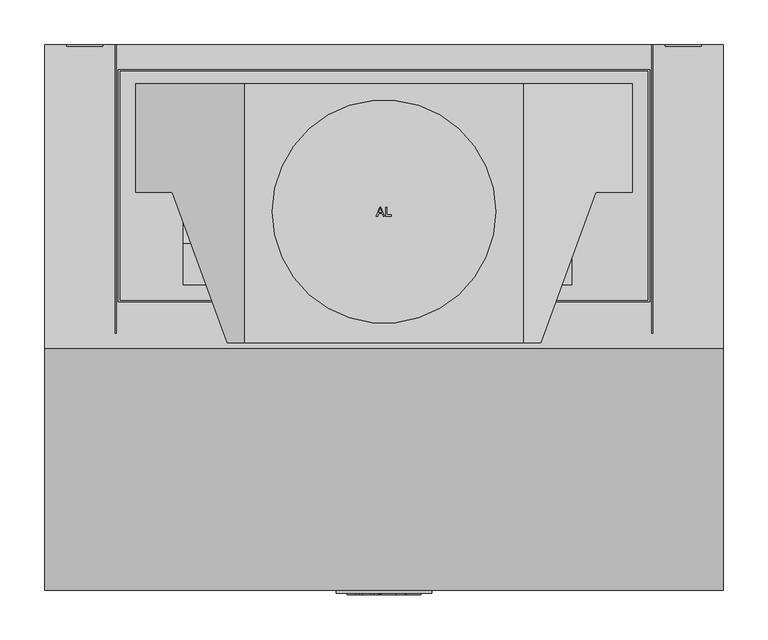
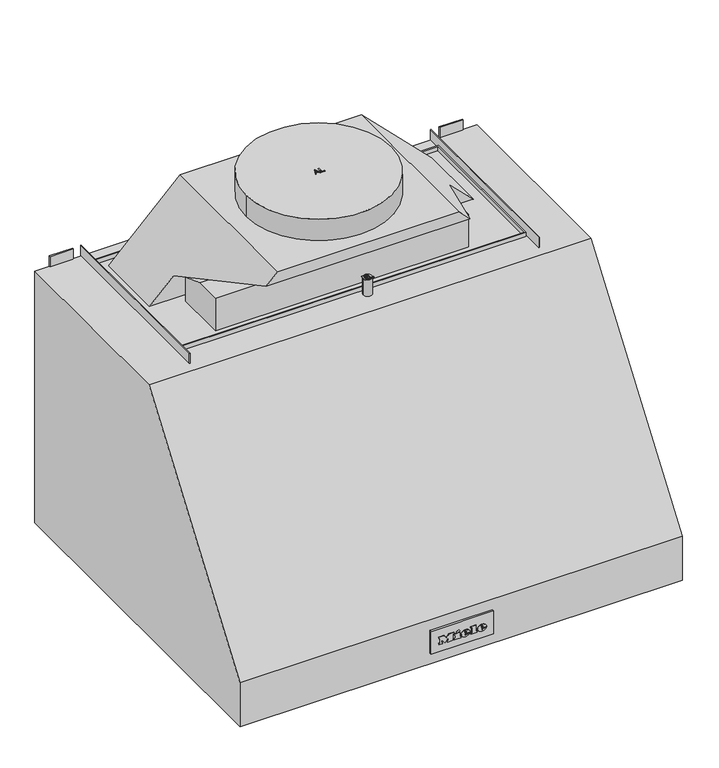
"""IFC4 building model written with IfcOpenShell, lengths in millimetres: proxy geometry, 11898130_USA_DAR1220-3_EDST : 28122051_USA_11898130_DAR1220-3_EDST."""

from ifc_helpers import new_model, si_unit, point, frame, frame_2d, origin, origin_with_axes, place, context, project, spatial, polyline, circle_curve, ellipse_curve, trimmed, segment, composite_curve, outline, extrude, faceted_brep, source, transform, mapped, element, save
from ifc_brep_helpers import plane_surface, cylinder_surface, revolved_surface, extruded_surface, advanced_brep


def specialty_equipment_fceb2e25(model_context):
    return source(origin(), model_context, "Body", "SolidModel", [
        extrude(outline(composite_curve([segment(trimmed(circle_curve(frame_2d((-221.5, -510.0)), 27.5), [point((-194.0, -510.0))], [point((-249.0, -510.0))], False, "CARTESIAN"), True, "CONTINUOUS"), segment(trimmed(circle_curve(frame_2d((-221.5, -510.0)), 27.5), [point((-249.0, -510.0))], [point((-194.0, -510.0))], False, "CARTESIAN"), True, "CONTINUOUS")], self_intersect=False)), origin_with_axes(), (0.0, 0.0, 1.0), 2.0),
        extrude(outline(composite_curve([segment(trimmed(circle_curve(frame_2d((221.5, -510.0)), 27.5), [point((249.0, -510.0))], [point((194.0, -510.0))], False, "CARTESIAN"), True, "CONTINUOUS"), segment(trimmed(circle_curve(frame_2d((221.5, -510.0)), 27.5), [point((194.0, -510.0))], [point((249.0, -510.0))], False, "CARTESIAN"), True, "CONTINUOUS")], self_intersect=False)), origin_with_axes(), (0.0, 0.0, 1.0), 2.0),
        extrude(outline(composite_curve([segment(trimmed(circle_curve(frame_2d((-221.5, -510.0)), 28.5), [point((-193.0, -510.0))], [point((-250.0, -510.0))], False, "CARTESIAN"), True, "CONTINUOUS"), segment(trimmed(circle_curve(frame_2d((-221.5, -510.0)), 28.5), [point((-250.0, -510.0))], [point((-193.0, -510.0))], False, "CARTESIAN"), True, "CONTINUOUS")], self_intersect=False), holes=[composite_curve([segment(trimmed(circle_curve(frame_2d((-221.5, -510.0)), 27.5), [point((-194.0, -510.0))], [point((-249.0, -510.0))], True, "CARTESIAN"), True, "CONTINUOUS"), segment(trimmed(circle_curve(frame_2d((-221.5, -510.0)), 27.5), [point((-249.0, -510.0))], [point((-194.0, -510.0))], True, "CARTESIAN"), True, "CONTINUOUS")], self_intersect=False)]), origin_with_axes(), (0.0, 0.0, 1.0), 2.0),
        extrude(outline(composite_curve([segment(trimmed(circle_curve(frame_2d((221.5, -510.0)), 28.5), [point((250.0, -510.0))], [point((193.0, -510.0))], False, "CARTESIAN"), True, "CONTINUOUS"), segment(trimmed(circle_curve(frame_2d((221.5, -510.0)), 28.5), [point((193.0, -510.0))], [point((250.0, -510.0))], False, "CARTESIAN"), True, "CONTINUOUS")], self_intersect=False), holes=[composite_curve([segment(trimmed(circle_curve(frame_2d((221.5, -510.0)), 27.5), [point((249.0, -510.0))], [point((194.0, -510.0))], True, "CARTESIAN"), True, "CONTINUOUS"), segment(trimmed(circle_curve(frame_2d((221.5, -510.0)), 27.5), [point((194.0, -510.0))], [point((249.0, -510.0))], True, "CARTESIAN"), True, "CONTINUOUS")], self_intersect=False)]), origin_with_axes(), (0.0, 0.0, 1.0), 2.0),
        extrude(outline(polyline([(0.0, 0.0), (37.5, 0.0), (37.5, -344.0), (0.0, -344.0), (0.0, 0.0)])), frame((-221.0, -56.7495561, 29.2989677), z_axis=(0.0, 0.6427876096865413, 0.7660444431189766), x_axis=(1.0, 0.0, 0.0)), (0.0, 0.0, 1.0), 25.0),
        extrude(outline(polyline([(87.0, -344.0), (49.5, -344.0), (49.5, 0.0), (87.0, 0.0), (87.0, -344.0)])), frame((-221.0, -56.7495561, 29.2989677), z_axis=(0.0, 0.6427876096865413, 0.7660444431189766), x_axis=(1.0, 0.0, 0.0)), (0.0, 0.0, 1.0), 25.0),
        extrude(outline(polyline([(136.5, -344.0), (99.0, -344.0), (99.0, 0.0), (136.5, 0.0), (136.5, -344.0)])), frame((-221.0, -56.7495561, 29.2989677), z_axis=(0.0, 0.6427876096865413, 0.7660444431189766), x_axis=(1.0, 0.0, 0.0)), (0.0, 0.0, 1.0), 25.0),
        extrude(outline(polyline([(186.0, -344.0), (148.5, -344.0), (148.5, 0.0), (186.0, 0.0), (186.0, -344.0)])), frame((-221.0, -56.7495561, 29.2989677), z_axis=(0.0, 0.6427876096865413, 0.7660444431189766), x_axis=(1.0, 0.0, 0.0)), (0.0, 0.0, 1.0), 25.0),
        extrude(outline(polyline([(256.0, 0.0), (293.5, 0.0), (293.5, -344.0), (256.0, -344.0), (256.0, 0.0)])), frame((-221.0, -56.7495561, 29.2989677), z_axis=(0.0, 0.6427876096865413, 0.7660444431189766), x_axis=(1.0, 0.0, 0.0)), (0.0, 0.0, 1.0), 25.0),
        extrude(outline(polyline([(343.0, -344.0), (305.5, -344.0), (305.5, 0.0), (343.0, 0.0), (343.0, -344.0)])), frame((-221.0, -56.7495561, 29.2989677), z_axis=(0.0, 0.6427876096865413, 0.7660444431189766), x_axis=(1.0, 0.0, 0.0)), (0.0, 0.0, 1.0), 25.0),
        extrude(outline(polyline([(392.5, -344.0), (355.0, -344.0), (355.0, 0.0), (392.5, 0.0), (392.5, -344.0)])), frame((-221.0, -56.7495561, 29.2989677), z_axis=(0.0, 0.6427876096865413, 0.7660444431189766), x_axis=(1.0, 0.0, 0.0)), (0.0, 0.0, 1.0), 25.0),
        extrude(outline(polyline([(442.0, -344.0), (404.5, -344.0), (404.5, 0.0), (442.0, 0.0), (442.0, -344.0)])), frame((-221.0, -56.7495561, 29.2989677), z_axis=(0.0, 0.6427876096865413, 0.7660444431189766), x_axis=(1.0, 0.0, 0.0)), (0.0, 0.0, 1.0), 25.0),
        extrude(outline(polyline([(0.0, -380.0), (0.0, 0.0), (256.0, 0.0), (256.0, -380.0), (0.0, -380.0)]), holes=[polyline([(18.0, -20.0), (18.0, -364.0000001), (238.0, -364.0000001), (238.0, -20.0), (18.0, -20.0)])]), frame((256.0, -335.5897334, 263.2736577), z_axis=(0.0, 0.6427876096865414, 0.7660444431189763), x_axis=(-1.0, 0.0, 0.0)), (0.0, 0.0, 1.0), 25.0),
        extrude(outline(polyline([(256.0, 0.0), (256.0, -380.0), (0.0, -380.0), (0.0, 0.0), (256.0, 0.0)]), holes=[polyline([(238.0, -359.904685), (238.0, -16.0), (18.0, -16.0), (18.0, -359.904685), (238.0, -359.904685)])]), frame((-256.0, -44.492845, 19.014366), z_axis=(0.0, 0.6427876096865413, 0.7660444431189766), x_axis=(1.0, 0.0, 0.0)), (0.0, 0.0, 1.0), 25.0),
        extrude(outline(polyline([(0.0, -32.0), (0.0, 0.0), (515.0, 0.0), (515.0, -32.0), (0.0, -32.0)])), frame((257.5, -54.2049091, 24.5529408), z_axis=(0.0, 0.6427876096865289, 0.7660444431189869), x_axis=(-1.0, 0.0, 0.0)), (0.0, 0.0, 1.0), 2.0),
        extrude(outline(composite_curve([segment(polyline([(-611.0, 60.5), (-611.0, 19.5), (-614.4897588, 19.5)]), True, "CONTINUOUS"), segment(trimmed(circle_curve(frame_2d((-407.0, 40.0)), 208.5), [point((-614.4897588, 19.5))], [point((-614.4897588, 60.5))], False, "CARTESIAN"), True, "CONTINUOUS"), segment(polyline([(-614.4897588, 60.5), (-611.0, 60.5)]), True, "CONTINUOUS")], self_intersect=False)), frame((-53.5, 0.0, 0.0), z_axis=(1.0, 0.0, 0.0), x_axis=(0.0, 1.0, 0.0)), (0.0, 0.0, 1.0), 107.0),
        extrude(outline(polyline([(-4.5372377, -181.9543211), (-3.4679056, -181.9543211), (0.5443291, -192.0074933), (-0.78117, -192.0074933), (-1.9464171, -188.8644809), (-6.0741019, -188.8644809), (-7.2153963, -192.0001615), (-8.5495657, -192.0001615), (-4.5372377, -181.9543211)]), holes=[polyline([(-5.6034113, -187.6023847), (-2.3954067, -187.6023847), (-4.0065067, -183.2149252), (-5.6034113, -187.6023847)])]), frame((0.0, 0.0, 619.0), z_axis=(0.0, 0.0, 1.0), x_axis=(1.0, 0.0, 0.0)), (0.0, 0.0, 1.0), 1.0),
        extrude(outline(polyline([(1.8811446, -192.000493), (1.8811446, -181.9526593), (3.1591519, -181.9526593), (3.1591519, -190.7381821), (8.1591519, -190.7381821), (8.1591519, -192.000493), (1.8811446, -192.000493)])), frame((0.0, 0.0, 619.0), z_axis=(0.0, 0.0, 1.0), x_axis=(1.0, 0.0, 0.0)), (0.0, 0.0, 1.0), 1.0),
        extrude(outline(polyline([(12.618401, -292.9519593), (19.854777, -292.9519593), (19.854777, -294.2111209), (13.8792364, -294.2111209), (13.8792364, -297.1924894), (19.5282155, -297.1924894), (19.5282155, -298.4490469), (13.881595, -298.4490469), (13.881595, -301.7405445), (20.0030995, -301.7405445), (20.0030995, -303.0025662), (12.618401, -303.0025662), (12.618401, -292.9519593)])), frame((0.0, 0.0, 487.0), z_axis=(0.0, 0.0, 1.0), x_axis=(1.0, 0.0, 0.0)), (0.0, 0.0, 1.0), 1.0),
        extrude(outline(polyline([(21.8808706, -303.001043), (21.8808706, -292.9502196), (23.1543386, -292.9502196), (23.1543386, -301.7343453), (28.1543386, -301.7343453), (28.1543386, -303.001043), (21.8808706, -303.001043)])), frame((0.0, 0.0, 487.0), z_axis=(0.0, 0.0, 1.0), x_axis=(1.0, 0.0, 0.0)), (0.0, 0.0, 1.0), 1.0),
        extrude(outline(composite_curve([segment(trimmed(circle_curve(frame_2d((20.0, -298.0)), 7.5), [point((27.5, -298.0))], [point((12.5, -298.0))], False, "CARTESIAN"), True, "CONTINUOUS"), segment(trimmed(circle_curve(frame_2d((20.0, -298.0)), 7.5), [point((12.5, -298.0))], [point((27.5, -298.0))], False, "CARTESIAN"), True, "CONTINUOUS")], self_intersect=False)), frame((0.0, 0.0, 457.0), z_axis=(0.0, 0.0, 1.0), x_axis=(1.0, 0.0, 0.0)), (0.0, 0.0, 1.0), 30.0),
        advanced_brep(
        [(380.0, -340.0, 457.0), (380.0, -611.0, 80.0), (380.0, -611.0, 0.0), (380.0, 0.0, 0.0), (380.0, 0.0, 457.0), (-380.0, -340.0, 457.0), (-380.0, 0.0, 457.0), (-380.0, 0.0, 0.0), (-380.0, -611.0, 0.0), (-380.0, -611.0, 80.0), (319.0, -440.0, 0.0), (319.0, -28.0, 0.0), (-319.0, -28.0, 0.0), (-319.0, -440.0, 0.0), (68.0, -554.0, 0.0), (68.0, -466.0, 0.0), (-68.0, -466.0, 0.0), (-68.0, -554.0, 0.0), (-192.5, -510.0, 0.0), (-250.5, -510.0, 0.0), (250.5, -510.0, 0.0), (192.5, -510.0, 0.0), (319.0, -440.0, 176.0), (319.0, -346.5798495, 321.3202342), (319.0, -28.0, 54.0), (-319.0, -28.0, 54.0), (-319.0, -346.5798495, 321.3202342), (-319.0, -440.0, 176.0), (68.0, -528.8270111, 30.0), (68.0, -521.4256258, 32.0), (-68.0, -528.8270111, 30.0), (-68.0, -521.4256258, 32.0), (-192.5, -510.0, 5.0), (-250.5, -510.0, 5.0), (250.5, -510.0, 5.0), (192.5, -510.0, 5.0)],
        [
            (0, 1),
            (1, 2),
            (2, 3),
            (3, 4),
            (4, 0),
            (5, 6),
            (6, 7),
            (7, 8),
            (8, 9),
            (9, 5),
            (1, 9),
            (8, 2),
            (7, 3),
            (10, 11),
            (11, 12),
            (12, 13),
            (13, 10),
            (14, 15),
            (15, 16),
            (16, 17),
            (17, 14),
            (18, 19, circle_curve(frame((-221.5, -510.0, 0.0), z_axis=(0.0, 0.0, 1.0), x_axis=(-1.0, 0.0, 0.0)), 29.0)),
            (19, 18, circle_curve(frame((-221.5, -510.0, 0.0), z_axis=(0.0, 0.0, 1.0), x_axis=(-1.0, 0.0, 0.0)), 29.0)),
            (20, 21, circle_curve(frame((221.5, -510.0, 0.0), z_axis=(0.0, 0.0, 1.0), x_axis=(-1.0, 0.0, 0.0)), 29.0)),
            (21, 20, circle_curve(frame((221.5, -510.0, 0.0), z_axis=(0.0, 0.0, 1.0), x_axis=(-1.0, 0.0, 0.0)), 29.0)),
            (6, 4),
            (5, 0),
            (10, 22),
            (22, 23),
            (23, 24),
            (24, 11),
            (12, 25),
            (25, 26),
            (26, 27),
            (27, 13),
            (24, 25),
            (28, 29, circle_curve(frame((68.0, -523.6917155, 25.6909754), z_axis=(-1.0, 0.0, 0.0), x_axis=(0.0, -1.0, 0.0)), 6.7036523)),
            (29, 15),
            (14, 28),
            (30, 17),
            (16, 31),
            (31, 30, circle_curve(frame((-68.0, -523.6917155, 25.6909754), z_axis=(1.0, 0.0, 0.0), x_axis=(0.0, -1.0, 0.0)), 6.7036523)),
            (30, 28),
            (29, 31),
            (22, 27),
            (26, 23),
            (32, 33, circle_curve(frame((-221.5, -510.0, 5.0), z_axis=(0.0, 0.0, -1.0), x_axis=(-1.0, 0.0, 0.0)), 29.0)),
            (33, 32, circle_curve(frame((-221.5, -510.0, 5.0), z_axis=(0.0, 0.0, -1.0), x_axis=(-1.0, 0.0, 0.0)), 29.0)),
            (34, 35, circle_curve(frame((221.5, -510.0, 5.0), z_axis=(0.0, 0.0, -1.0), x_axis=(-1.0, 0.0, 0.0)), 29.0)),
            (35, 34, circle_curve(frame((221.5, -510.0, 5.0), z_axis=(0.0, 0.0, -1.0), x_axis=(-1.0, 0.0, 0.0)), 29.0)),
            (33, 19),
            (18, 32),
            (35, 21),
            (20, 34),
        ],
        [
            plane_surface(frame((380.0, -611.0, 80.0), z_axis=(1.0, 0.0, 0.0), x_axis=(0.0, -0.5836804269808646, -0.8119834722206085))),
            plane_surface(frame((-380.0, -611.0, 80.0), z_axis=(-1.0, 0.0, 0.0), x_axis=(0.0, 0.5836804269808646, 0.8119834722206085))),
            plane_surface(frame((380.0, -611.0, 80.0), z_axis=(0.0, -1.0, 0.0), x_axis=(-1.0, 0.0, 0.0))),
            plane_surface(frame((380.0, -611.0, 0.0), z_axis=(0.0, 0.0, -1.0), x_axis=(-1.0, 0.0, 0.0))),
            plane_surface(frame((380.0, 0.0, 0.0), z_axis=(0.0, 1.0, 0.0), x_axis=(-1.0, 0.0, 0.0))),
            plane_surface(frame((380.0, 0.0, 457.0), z_axis=(0.0, 0.0, 1.0), x_axis=(-1.0, 0.0, 0.0))),
            plane_surface(frame((380.0, -340.0, 457.0), z_axis=(0.0, -0.8119834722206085, 0.5836804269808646), x_axis=(-1.0, 0.0, 0.0))),
            plane_surface(frame((319.0, -440.0, 0.0), z_axis=(-1.0, 0.0, 0.0), x_axis=(0.0, 1.0, 0.0))),
            plane_surface(frame((-319.0, -440.0, 0.0), z_axis=(1.0, 0.0, 0.0), x_axis=(0.0, -1.0, 0.0))),
            plane_surface(frame((-319.0, -28.0, 54.0), z_axis=(0.0, -1.0, 0.0), x_axis=(1.0, 0.0, 0.0))),
            plane_surface(frame((68.0, -530.3953678, 25.6909754), z_axis=(-1.0, 0.0, 0.0), x_axis=(0.0, 0.0, -1.0))),
            plane_surface(frame((-68.0, -530.3953678, 25.6909754), z_axis=(1.0, 0.0, 0.0), x_axis=(0.0, 0.0, 1.0))),
            plane_surface(frame((-68.0, -554.0, 0.0), z_axis=(0.0, 0.7660444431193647, -0.6427876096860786), x_axis=(1.0, 0.0, 0.0))),
            plane_surface(frame((-68.0, -521.4256258, 32.0), z_axis=(0.0, -0.5000000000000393, -0.8660254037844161), x_axis=(1.0, 0.0, 0.0))),
            plane_surface(frame((-319.0, -440.0, 176.0), z_axis=(0.0, 0.8411784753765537, -0.5407575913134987), x_axis=(1.0, 0.0, 0.0))),
            plane_surface(frame((-319.0, -440.0, 0.0), z_axis=(0.0, 1.0, 0.0), x_axis=(1.0, 0.0, 0.0))),
            revolved_surface(polyline([(-68.0, -530.3953678, 25.6909754), (68.0, -530.3953678, 25.6909754)]), (68.0, -523.6917155, 25.6909754), (-1.0, 0.0, 0.0)),
            plane_surface(frame((-319.0, -346.5798495, 321.3202342), z_axis=(0.0, -0.642787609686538, -0.7660444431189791), x_axis=(1.0, 0.0, 0.0))),
            plane_surface(frame((-250.5, -510.0, 5.0), z_axis=(0.0, 0.0, -1.0), x_axis=(0.0, -1.0, 0.0))),
            revolved_surface(polyline([(-250.5, -510.0, 5.0), (-250.5, -510.0, 0.0)]), (-221.5, -510.0, 0.0), (0.0, 0.0, 1.0)),
            revolved_surface(polyline([(192.5, -510.0, 5.0), (192.5, -510.0, 0.0)]), (221.5, -510.0, 0.0), (0.0, 0.0, 1.0)),
        ],
        [
            (0, [[1, 2, 3, 4, 5]]),
            (1, [[6, 7, 8, 9, 10]]),
            (2, [[-2, 11, -9, 12]]),
            (3, [[-3, -12, -8, 13], [14, 15, 16, 17], [18, 19, 20, 21], [22, 23], [24, 25]]),
            (4, [[-4, -13, -7, 26]]),
            (5, [[-5, -26, -6, 27]]),
            (6, [[-1, -27, -10, -11]]),
            (7, [[28, 29, 30, 31, -14]]),
            (8, [[32, 33, 34, 35, -16]]),
            (9, [[-31, 36, -32, -15]]),
            (10, [[37, 38, -18, 39]]),
            (11, [[40, -20, 41, 42]]),
            (12, [[-39, -21, -40, 43]]),
            (13, [[-38, 44, -41, -19]]),
            (14, [[-29, 45, -34, 46]]),
            (15, [[-28, -17, -35, -45]]),
            (16, [[-37, -43, -42, -44]]),
            (17, [[-30, -46, -33, -36]]),
            (18, [[47, 48]]),
            (18, [[49, 50]]),
            (19, [[-48, 51, -22, 52]]),
            (19, [[-47, -52, -23, -51]]),
            (20, [[-50, 53, -24, 54]]),
            (20, [[-49, -54, -25, -53]]),
        ],
    ),
        extrude(outline(polyline([(-315.0, 0.0), (-315.0, -2.0), (-355.0, -2.0), (-355.0, 0.0), (-315.0, 0.0)])), frame((0.0, 0.0, 457.0), z_axis=(0.0, 0.0, 1.0), x_axis=(1.0, 0.0, 0.0)), (0.0, 0.0, 1.0), 19.0),
        extrude(outline(polyline([(315.0, 0.0), (355.0, 0.0), (355.0, -2.0), (315.0, -2.0), (315.0, 0.0)])), frame((0.0, 0.0, 457.0), z_axis=(0.0, 0.0, 1.0), x_axis=(1.0, 0.0, 0.0)), (0.0, 0.0, 1.0), 19.0),
        extrude(outline(polyline([(-300.0, 0.0), (-300.0, -323.0), (-301.0, -323.0), (-301.0, 0.0), (-300.0, 0.0)])), frame((0.0, 0.0, 457.0), z_axis=(0.0, 0.0, 1.0), x_axis=(1.0, 0.0, 0.0)), (0.0, 0.0, 1.0), 19.0),
        extrude(outline(polyline([(300.0, 0.0), (301.0, 0.0), (301.0, -323.0), (300.0, -323.0), (300.0, 0.0)])), frame((0.0, 0.0, 457.0), z_axis=(0.0, 0.0, 1.0), x_axis=(1.0, 0.0, 0.0)), (0.0, 0.0, 1.0), 19.0),
        extrude(outline(polyline([(297.5, -28.0), (297.5, -288.0), (-297.5, -288.0), (-297.5, -28.0), (297.5, -28.0)]), holes=[polyline([(295.5, -30.0), (-295.5, -30.0), (-295.5, -286.0), (295.5, -286.0), (295.5, -30.0)])]), frame((0.0, 0.0, 457.0), z_axis=(0.0, 0.0, 1.0), x_axis=(1.0, 0.0, 0.0)), (0.0, 0.0, 1.0), 8.0),
        faceted_brep([(156.0, -44.0, 580.0), (-156.0, -44.0, 580.0), (-156.0, -334.0, 580.0), (156.0, -334.0, 580.0), (-279.0, -44.0, 457.0), (279.0, -44.0, 457.0), (279.0, -165.0, 457.0), (-279.0, -165.0, 457.0), (-175.4890304, -334.0, 560.5109696), (175.4890304, -334.0, 560.5109696), (-237.0, -165.0, 499.0), (237.0, -165.0, 499.0)], [[[0, 1, 2, 3]], [[4, 5, 6, 7]], [[5, 4, 1, 0]], [[3, 2, 8, 9]], [[9, 8, 10, 11]], [[7, 6, 11, 10]], [[2, 1, 4, 7, 10, 8]], [[0, 3, 9, 11, 6, 5]]]),
        extrude(outline(polyline([(-181.0, 457.0), (-269.0, 457.0), (-269.0, 517.0), (-223.0, 517.0), (-181.0, 501.7132502), (-181.0, 457.0)])), frame((-225.0, 0.0, 0.0), z_axis=(1.0, 0.0, 0.0), x_axis=(0.0, 1.0, 0.0)), (0.0, 0.0, 1.0), 435.0),
        extrude(outline(composite_curve([segment(trimmed(circle_curve(frame_2d((0.0, -187.0)), 125.0), [point((125.0, -187.0))], [point((-125.0, -187.0))], False, "CARTESIAN"), True, "CONTINUOUS"), segment(trimmed(circle_curve(frame_2d((0.0, -187.0)), 125.0), [point((-125.0, -187.0))], [point((125.0, -187.0))], False, "CARTESIAN"), True, "CONTINUOUS")], self_intersect=False)), frame((0.0, 0.0, 580.0), z_axis=(0.0, 0.0, 1.0), x_axis=(1.0, 0.0, 0.0)), (0.0, 0.0, 1.0), 39.0),
        extrude(outline(polyline([(-365.0027283, 292.6624227), (-346.5798495, 321.3202342), (-314.6821741, 294.5549065), (-339.9408614, 271.6330194), (-365.0027283, 292.6624227)])), frame((-258.0, 0.0, 0.0), z_axis=(1.0, 0.0, 0.0), x_axis=(0.0, 1.0, 0.0)), (0.0, 0.0, 1.0), 516.0),
        extrude(outline(polyline([(-28.0, 10.0), (-364.9541024, 292.738063), (-346.5798495, 321.3202342), (-28.0, 54.0), (-28.0, 10.0)])), frame((258.0, 0.0, 0.0), z_axis=(1.0, 0.0, 0.0), x_axis=(0.0, 1.0, 0.0)), (0.0, 0.0, 1.0), 61.0),
        extrude(outline(polyline([(-346.5798495, 321.3202342), (-28.0, 54.0), (-28.0, 10.0), (-364.9541024, 292.738063), (-346.5798495, 321.3202342)])), frame((-319.0, 0.0, 0.0), z_axis=(1.0, 0.0, 0.0), x_axis=(0.0, 1.0, 0.0)), (0.0, 0.0, 1.0), 61.0),
        extrude(outline(composite_curve([segment(polyline([(-37.1483512, 0.0), (0.0, 0.0)]), True, "CONTINUOUS"), segment(trimmed(circle_curve(frame_2d((-18.5741756, -4.0)), 19.0), [point((0.0, 0.0))], [point((0.4258244, -4.0))], False, "CARTESIAN"), True, "CONTINUOUS"), segment(trimmed(circle_curve(frame_2d((-18.5741756, -4.0)), 19.0), [point((0.4258244, -4.0))], [point((0.0, -8.0))], False, "CARTESIAN"), True, "CONTINUOUS"), segment(polyline([(0.0, -8.0), (-37.1483512, -8.0)]), True, "CONTINUOUS"), segment(trimmed(circle_curve(frame_2d((-18.5741756, -4.0)), 19.0), [point((-37.1483512, -8.0))], [point((-37.5741756, -4.0))], False, "CARTESIAN"), True, "CONTINUOUS"), segment(trimmed(circle_curve(frame_2d((-18.5741756, -4.0)), 19.0), [point((-37.5741756, -4.0))], [point((-37.1483512, 0.0))], False, "CARTESIAN"), True, "CONTINUOUS")], self_intersect=False)), frame((-38.9999142, -493.7462424, -8.2819697), z_axis=(0.0, 0.4999999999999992, 0.8660254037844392), x_axis=(0.0, 0.8660254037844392, -0.4999999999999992)), (0.0, 0.0, 1.0), 13.0),
        extrude(outline(composite_curve([segment(polyline([(0.2191566, -77.9999142), (-36.9291946, -77.9999142)]), True, "CONTINUOUS"), segment(trimmed(circle_curve(frame_2d((-18.3550191, -73.9999142)), 19.0), [point((-36.9291946, -77.9999142))], [point((-37.355019, -73.9999142))], False, "CARTESIAN"), True, "CONTINUOUS"), segment(trimmed(circle_curve(frame_2d((-18.3550191, -73.9999142)), 19.0), [point((-37.355019, -73.9999142))], [point((-36.9291946, -69.9999142))], False, "CARTESIAN"), True, "CONTINUOUS"), segment(polyline([(-36.9291946, -69.9999142), (0.2191566, -69.9999142)]), True, "CONTINUOUS"), segment(trimmed(circle_curve(frame_2d((-18.3550191, -73.9999142)), 19.0), [point((0.2191566, -69.9999142))], [point((0.644981, -73.9999142))], False, "CARTESIAN"), True, "CONTINUOUS"), segment(trimmed(circle_curve(frame_2d((-18.3550191, -73.9999142)), 19.0), [point((0.644981, -73.9999142))], [point((0.2191566, -77.9999142))], False, "CARTESIAN"), True, "CONTINUOUS")], self_intersect=False)), frame((-38.9999142, -493.7462424, -8.2819697), z_axis=(0.0, 0.4999999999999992, 0.8660254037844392), x_axis=(0.0, 0.8660254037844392, -0.4999999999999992)), (0.0, 0.0, 1.0), 13.0),
        extrude(outline(composite_curve([segment(trimmed(circle_curve(frame_2d((0.0, -19.0)), 19.0), [point((0.0, -38.0))], [point((0.0, 0.0))], False, "CARTESIAN"), True, "CONTINUOUS"), segment(trimmed(circle_curve(frame_2d((0.0, -19.0)), 19.0), [point((0.0, 0.0))], [point((0.0, -38.0))], False, "CARTESIAN"), True, "CONTINUOUS")], self_intersect=False)), frame((-34.9999142, -519.786433, 21.7634484), z_axis=(0.0, 0.4999999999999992, 0.8660254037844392), x_axis=(-1.0, 0.0, 0.0)), (0.0, 0.0, 1.0), 8.0),
        extrude(outline(composite_curve([segment(trimmed(circle_curve(frame_2d((-69.9999142, -19.2191566)), 19.0), [point((-69.9999142, -38.2191566))], [point((-69.9999142, -0.2191566))], False, "CARTESIAN"), True, "CONTINUOUS"), segment(trimmed(circle_curve(frame_2d((-69.9999142, -19.2191566)), 19.0), [point((-69.9999142, -0.2191566))], [point((-69.9999142, -38.2191566))], False, "CARTESIAN"), True, "CONTINUOUS")], self_intersect=False)), frame((-34.9999142, -519.786433, 21.7634484), z_axis=(0.0, 0.4999999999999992, 0.8660254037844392), x_axis=(-1.0, 0.0, 0.0)), (0.0, 0.0, 1.0), 8.0),
        advanced_brep(
        [(32.17, -616.0, 36.1995), (32.17, -616.0, 37.563), (41.2015, -616.0, 37.563), (25.4875, -616.0, 37.563), (29.2, -616.0, 33.0), (40.972, -616.0, 36.1995), (36.895, -616.0, 36.1995), (33.682, -616.0, 34.6875), (32.17, -616.0, 39.291), (32.17, -616.0, 40.7625), (34.4785, -616.0, 40.7625), (34.4785, -616.0, 39.291), (32.17, -615.0, 36.1995), (33.682, -615.0, 34.6875), (36.895, -615.0, 36.1995), (40.972, -615.0, 36.1995), (29.2, -615.0, 33.0), (25.4875, -615.0, 37.563), (41.2015, -615.0, 37.563), (32.17, -615.0, 37.563), (32.17, -615.0, 39.291), (34.4785, -615.0, 39.291), (34.4785, -615.0, 40.7625), (32.17, -615.0, 40.7625)],
        [
            (0, 1),
            (1, 2),
            (2, 3, ellipse_curve(frame((33.3445, -616.0, 37.563), z_axis=(0.0, -1.0, 0.0), x_axis=(-1.0, 0.0, 0.0)), 7.857, 6.4935)),
            (3, 4, circle_curve(frame((30.7120736, -616.0, 38.022), z_axis=(0.0, -1.0, 0.0), x_axis=(0.0, 0.0, -1.0)), 5.2446974)),
            (4, 5, circle_curve(frame((33.1872142, -616.0, 41.586), z_axis=(0.0, -1.0, 0.0), x_axis=(0.0, 0.0, -1.0)), 9.46664)),
            (5, 6),
            (6, 7, circle_curve(frame((34.3419118, -616.0, 37.455), z_axis=(0.0, 1.0, 0.0), x_axis=(0.0, 0.0, -1.0)), 2.8450905)),
            (7, 0, circle_curve(frame((33.682, -616.0, 36.1995), z_axis=(0.0, 1.0, 0.0), x_axis=(0.0, 0.0, -1.0)), 1.512)),
            (8, 9),
            (9, 10, circle_curve(frame((33.32425, -616.0, 40.7625), z_axis=(0.0, 1.0, 0.0), x_axis=(0.0, 0.0, -1.0)), 1.15425)),
            (10, 11),
            (11, 8),
            (12, 13, circle_curve(frame((33.682, -615.0, 36.1995), z_axis=(0.0, -1.0, 0.0), x_axis=(0.0, 0.0, -1.0)), 1.512)),
            (13, 14, circle_curve(frame((34.3419118, -615.0, 37.455), z_axis=(0.0, -1.0, 0.0), x_axis=(0.0, 0.0, -1.0)), 2.8450905)),
            (14, 15),
            (15, 16, circle_curve(frame((33.1872142, -615.0, 41.586), z_axis=(0.0, 1.0, 0.0), x_axis=(0.0, 0.0, -1.0)), 9.46664)),
            (16, 17, circle_curve(frame((30.7120736, -615.0, 38.022), z_axis=(0.0, 1.0, 0.0), x_axis=(0.0, 0.0, -1.0)), 5.2446974)),
            (17, 18, ellipse_curve(frame((33.3445, -615.0, 37.563), z_axis=(0.0, 1.0, 0.0), x_axis=(-1.0, 0.0, 0.0)), 7.857, 6.4935)),
            (18, 19),
            (19, 12),
            (20, 21),
            (21, 22),
            (22, 23, circle_curve(frame((33.32425, -615.0, 40.7625), z_axis=(0.0, -1.0, 0.0), x_axis=(0.0, 0.0, -1.0)), 1.15425)),
            (23, 20),
            (0, 12),
            (19, 1),
            (18, 2),
            (5, 15),
            (14, 6),
            (17, 3),
            (13, 7),
            (16, 4),
            (8, 20),
            (23, 9),
            (22, 10),
            (21, 11),
        ],
        [
            plane_surface(frame((32.17, -616.0, 37.563), z_axis=(0.0, -1.0, 0.0), x_axis=(0.0, 0.0, 1.0))),
            plane_surface(frame((32.17, -615.0, 37.563), z_axis=(0.0, 1.0, 0.0), x_axis=(0.0, 0.0, -1.0))),
            plane_surface(frame((32.17, -616.0, 36.1995), z_axis=(1.0, 0.0, 0.0), x_axis=(0.0, 1.0, 0.0))),
            plane_surface(frame((32.17, -616.0, 37.563), z_axis=(0.0, 0.0, -1.0), x_axis=(0.0, 1.0, 0.0))),
            plane_surface(frame((40.972, -616.0, 36.1995), z_axis=(0.0, 0.0, 1.0), x_axis=(0.0, 1.0, 0.0))),
            extruded_surface(trimmed(ellipse_curve(frame((33.3445, -614.0, 37.563), z_axis=(0.0, -1.0, 0.0), x_axis=(-1.0, 0.0, 0.0)), 7.857, 6.4935), [point((41.2015, -614.0, 37.563))], [point((25.4875, -614.0, 37.563))], True, "CARTESIAN"), (0.0, -1.0, 0.0), 1.0),
            revolved_surface(polyline([(34.3419118, -615.0, 34.6099095), (34.3419118, -616.0, 34.6099095)]), (34.3419118, -615.0, 37.455), (0.0, 1.0, 0.0)),
            revolved_surface(polyline([(33.682, -615.0, 34.6875), (33.682, -616.0, 34.6875)]), (33.682, -615.0, 36.1995), (0.0, 1.0, 0.0)),
            cylinder_surface(frame((30.7120736, -615.0, 38.022), z_axis=(0.0, -1.0, 0.0), x_axis=(0.0, 0.0, -1.0)), 5.2446974),
            cylinder_surface(frame((33.1872142, -615.0, 41.586), z_axis=(0.0, -1.0, 0.0), x_axis=(0.0, 0.0, -1.0)), 9.46664),
            plane_surface(frame((32.17, -616.0, 39.291), z_axis=(1.0, 0.0, 0.0), x_axis=(0.0, 1.0, 0.0))),
            revolved_surface(polyline([(33.32425, -615.0, 39.608250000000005), (33.32425, -616.0, 39.608250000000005)]), (33.32425, -615.0, 40.7625), (0.0, 1.0, 0.0)),
            plane_surface(frame((34.4785, -616.0, 40.7625), z_axis=(-1.0, 0.0, 0.0), x_axis=(0.0, 1.0, 0.0))),
            plane_surface(frame((34.4785, -616.0, 39.291), z_axis=(0.0, 0.0, 1.0), x_axis=(0.0, 1.0, 0.0))),
        ],
        [
            (0, [[1, 2, 3, 4, 5, 6, 7, 8], [9, 10, 11, 12]]),
            (1, [[13, 14, 15, 16, 17, 18, 19, 20], [21, 22, 23, 24]]),
            (2, [[-1, 25, -20, 26]]),
            (3, [[-2, -26, -19, 27]]),
            (4, [[-6, 28, -15, 29]]),
            (5, [[-3, -27, -18, 30]]),
            (6, [[-7, -29, -14, 31]]),
            (7, [[-8, -31, -13, -25]]),
            (8, [[-4, -30, -17, 32]]),
            (9, [[-5, -32, -16, -28]]),
            (10, [[-9, 33, -24, 34]]),
            (11, [[-10, -34, -23, 35]]),
            (12, [[-11, -35, -22, 36]]),
            (13, [[-12, -36, -21, -33]]),
        ],
    ),
        advanced_brep(
        [(3.9955, -616.0, 36.1995), (3.9955, -616.0, 37.563), (13.027, -616.0, 37.563), (-2.687, -616.0, 37.563), (1.0255, -616.0, 33.0), (12.7975, -616.0, 36.1995), (8.7205, -616.0, 36.1995), (5.5075, -616.0, 34.6875), (3.9955, -616.0, 39.291), (3.9955, -616.0, 40.7625), (6.304, -616.0, 40.7625), (6.304, -616.0, 39.291), (3.9955, -615.0, 36.1995), (5.5075, -615.0, 34.6875), (8.7205, -615.0, 36.1995), (12.7975, -615.0, 36.1995), (1.0255, -615.0, 33.0), (-2.687, -615.0, 37.563), (13.027, -615.0, 37.563), (3.9955, -615.0, 37.563), (3.9955, -615.0, 39.291), (6.304, -615.0, 39.291), (6.304, -615.0, 40.7625), (3.9955, -615.0, 40.7625)],
        [
            (0, 1),
            (1, 2),
            (2, 3, ellipse_curve(frame((5.17, -616.0, 37.563), z_axis=(0.0, -1.0, 0.0), x_axis=(-1.0, 0.0, 0.0)), 7.857, 6.4935)),
            (3, 4, circle_curve(frame((2.5375736, -616.0, 38.022), z_axis=(0.0, -1.0, 0.0), x_axis=(0.0, 0.0, -1.0)), 5.2446974)),
            (4, 5, circle_curve(frame((5.0127142, -616.0, 41.586), z_axis=(0.0, -1.0, 0.0), x_axis=(0.0, 0.0, -1.0)), 9.46664)),
            (5, 6),
            (6, 7, circle_curve(frame((6.1674118, -616.0, 37.455), z_axis=(0.0, 1.0, 0.0), x_axis=(0.0, 0.0, -1.0)), 2.8450905)),
            (7, 0, circle_curve(frame((5.5075, -616.0, 36.1995), z_axis=(0.0, 1.0, 0.0), x_axis=(0.0, 0.0, -1.0)), 1.512)),
            (8, 9),
            (9, 10, circle_curve(frame((5.14975, -616.0, 40.7625), z_axis=(0.0, 1.0, 0.0), x_axis=(0.0, 0.0, -1.0)), 1.15425)),
            (10, 11),
            (11, 8),
            (12, 13, circle_curve(frame((5.5075, -615.0, 36.1995), z_axis=(0.0, -1.0, 0.0), x_axis=(0.0, 0.0, -1.0)), 1.512)),
            (13, 14, circle_curve(frame((6.1674118, -615.0, 37.455), z_axis=(0.0, -1.0, 0.0), x_axis=(0.0, 0.0, -1.0)), 2.8450905)),
            (14, 15),
            (15, 16, circle_curve(frame((5.0127142, -615.0, 41.586), z_axis=(0.0, 1.0, 0.0), x_axis=(0.0, 0.0, -1.0)), 9.46664)),
            (16, 17, circle_curve(frame((2.5375736, -615.0, 38.022), z_axis=(0.0, 1.0, 0.0), x_axis=(0.0, 0.0, -1.0)), 5.2446974)),
            (17, 18, ellipse_curve(frame((5.17, -615.0, 37.563), z_axis=(0.0, 1.0, 0.0), x_axis=(-1.0, 0.0, 0.0)), 7.857, 6.4935)),
            (18, 19),
            (19, 12),
            (20, 21),
            (21, 22),
            (22, 23, circle_curve(frame((5.14975, -615.0, 40.7625), z_axis=(0.0, -1.0, 0.0), x_axis=(0.0, 0.0, -1.0)), 1.15425)),
            (23, 20),
            (0, 12),
            (19, 1),
            (18, 2),
            (5, 15),
            (14, 6),
            (17, 3),
            (13, 7),
            (16, 4),
            (8, 20),
            (23, 9),
            (22, 10),
            (21, 11),
        ],
        [
            plane_surface(frame((3.9955, -616.0, 37.563), z_axis=(0.0, -1.0, 0.0), x_axis=(0.0, 0.0, 1.0))),
            plane_surface(frame((3.9955, -615.0, 37.563), z_axis=(0.0, 1.0, 0.0), x_axis=(0.0, 0.0, -1.0))),
            plane_surface(frame((3.9955, -616.0, 36.1995), z_axis=(1.0, 0.0, 0.0), x_axis=(0.0, 1.0, 0.0))),
            plane_surface(frame((3.9955, -616.0, 37.563), z_axis=(0.0, 0.0, -1.0), x_axis=(0.0, 1.0, 0.0))),
            plane_surface(frame((12.7975, -616.0, 36.1995), z_axis=(0.0, 0.0, 1.0), x_axis=(0.0, 1.0, 0.0))),
            extruded_surface(trimmed(ellipse_curve(frame((5.17, -614.0, 37.563), z_axis=(0.0, -1.0, 0.0), x_axis=(-1.0, 0.0, 0.0)), 7.857, 6.4935), [point((13.027, -614.0, 37.563))], [point((-2.687, -614.0, 37.563))], True, "CARTESIAN"), (0.0, -1.0, 0.0), 1.0),
            revolved_surface(polyline([(6.1674118, -615.0, 34.6099095), (6.1674118, -616.0, 34.6099095)]), (6.1674118, -615.0, 37.455), (0.0, 1.0, 0.0)),
            revolved_surface(polyline([(5.5075, -615.0, 34.6875), (5.5075, -616.0, 34.6875)]), (5.5075, -615.0, 36.1995), (0.0, 1.0, 0.0)),
            cylinder_surface(frame((2.5375736, -615.0, 38.022), z_axis=(0.0, -1.0, 0.0), x_axis=(0.0, 0.0, -1.0)), 5.2446974),
            cylinder_surface(frame((5.0127142, -615.0, 41.586), z_axis=(0.0, -1.0, 0.0), x_axis=(0.0, 0.0, -1.0)), 9.46664),
            plane_surface(frame((3.9955, -616.0, 39.291), z_axis=(1.0, 0.0, 0.0), x_axis=(0.0, 1.0, 0.0))),
            revolved_surface(polyline([(5.14975, -615.0, 39.608250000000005), (5.14975, -616.0, 39.608250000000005)]), (5.14975, -615.0, 40.7625), (0.0, 1.0, 0.0)),
            plane_surface(frame((6.304, -616.0, 40.7625), z_axis=(-1.0, 0.0, 0.0), x_axis=(0.0, 1.0, 0.0))),
            plane_surface(frame((6.304, -616.0, 39.291), z_axis=(0.0, 0.0, 1.0), x_axis=(0.0, 1.0, 0.0))),
        ],
        [
            (0, [[1, 2, 3, 4, 5, 6, 7, 8], [9, 10, 11, 12]]),
            (1, [[13, 14, 15, 16, 17, 18, 19, 20], [21, 22, 23, 24]]),
            (2, [[-1, 25, -20, 26]]),
            (3, [[-2, -26, -19, 27]]),
            (4, [[-6, 28, -15, 29]]),
            (5, [[-3, -27, -18, 30]]),
            (6, [[-7, -29, -14, 31]]),
            (7, [[-8, -31, -13, -25]]),
            (8, [[-4, -30, -17, 32]]),
            (9, [[-5, -32, -16, -28]]),
            (10, [[-9, 33, -24, 34]]),
            (11, [[-10, -34, -23, 35]]),
            (12, [[-11, -35, -22, 36]]),
            (13, [[-12, -36, -21, -33]]),
        ],
    ),
        extrude(outline(polyline([(45.7035, -10.76), (43.5165, -9.734), (45.6495, -5.1575), (47.8365, -6.17), (45.7035, -10.76)])), frame((0.0, -616.0, 0.0), z_axis=(0.0, 1.0, 0.0), x_axis=(0.0, 0.0, 1.0)), (0.0, 0.0, 1.0), 1.0),
        extrude(outline(polyline([(43.2195, -14.0945), (40.803, -14.0945), (40.803, -12.488), (35.268, -12.488), (35.268, -14.0945), (33.0, -14.0945), (33.0, -3.443), (35.268, -3.443), (35.268, -5.009), (43.2195, -5.009), (43.2195, -14.0945)])), frame((0.0, -616.0, 0.0), z_axis=(0.0, 1.0, 0.0), x_axis=(0.0, 0.0, 1.0)), (0.0, 0.0, 1.0), 1.0),
        extrude(outline(polyline([(44.2995, 13.783), (44.2995, 15.403), (35.268, 15.403), (35.268, 13.783), (33.0, 13.783), (33.0, 24.7315), (35.268, 24.7315), (35.268, 23.071), (46.5, 23.071), (46.5, 13.783), (44.2995, 13.783)])), frame((0.0, -616.0, 0.0), z_axis=(0.0, 1.0, 0.0), x_axis=(0.0, 0.0, 1.0)), (0.0, 0.0, 1.0), 1.0),
        extrude(outline(polyline([(44.2995, -41.0), (44.2995, -39.3665), (35.268, -39.3665), (35.268, -41.0), (33.0, -41.0), (33.0, -35.06), (35.268, -35.06), (35.268, -36.68), (40.9756247, -36.68), (33.0, -30.6455), (41.2527223, -24.584), (35.268, -24.584), (35.268, -26.2445), (33.0, -26.2445), (33.0, -15.4715), (35.268, -15.4715), (35.268, -17.186), (44.2995, -17.186), (44.2995, -15.4715), (46.5, -15.4715), (46.5, -23.693), (41.4375, -27.635), (46.5, -31.5905), (46.5, -41.0), (44.2995, -41.0)])), frame((0.0, -616.0, 0.0), z_axis=(0.0, 1.0, 0.0), x_axis=(0.0, 0.0, 1.0)), (0.0, 0.0, 1.0), 1.0),
    ])


if __name__ == "__main__":
    model = new_model("IFC4")
    model_context = context("Model", 3, world=origin())
    ifc_project = project(units=[si_unit("LENGTHUNIT", "METRE", prefix="MILLI")], contexts=[model_context])
    site = spatial("IfcSite", under=ifc_project)
    building = spatial("IfcBuilding", under=site)
    placement = place(None, origin())
    specialty_equipment_shape = specialty_equipment_fceb2e25(model_context)
    element("IfcBuildingElementProxy", 1, Name="11898130_USA_DAR1220-3_EDST : 28122051_USA_11898130_DAR1220-3_EDST", ObjectType="11898130_USA_DAR1220-3_EDST : 28122051_USA_11898130_DAR1220-3_EDST", at=placement, inside=building, context=model_context, shape_type="MappedRepresentation", body=[
        mapped(specialty_equipment_shape, transform((0.0, 0.0, 0.0), x_axis=(1.0, 0.0, 0.0), y_axis=(0.0, 1.0, 0.0), z_axis=(0.0, 0.0, 1.0))),
    ])
    save(model, "model.ifc")
